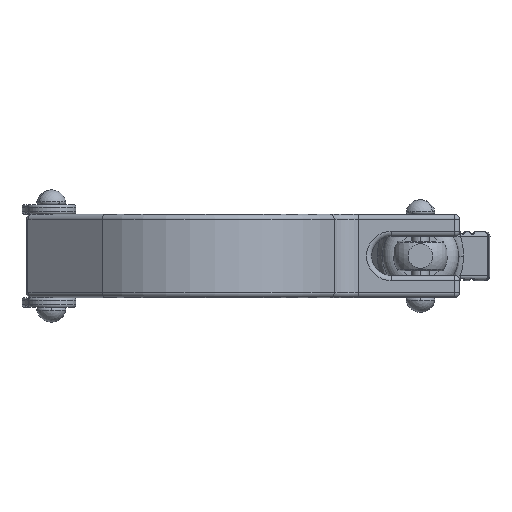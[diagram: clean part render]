
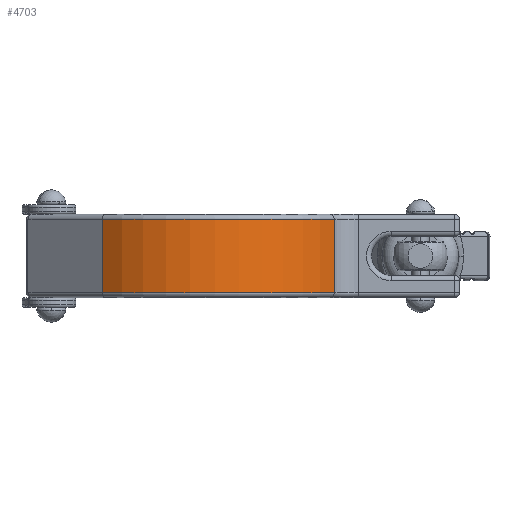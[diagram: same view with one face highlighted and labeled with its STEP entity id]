
A CAD part, front view. The second image highlights one B-rep face of the part: STEP entity #4703.
In plain terms, the highlighted cylindrical face has radius 31.15 mm (diameter 62.3 mm), a partial arc.
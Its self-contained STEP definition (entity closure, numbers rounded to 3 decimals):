
#164 = CIRCLE ( 'NONE', #10971, 31.15 ) ;
#1477 = CYLINDRICAL_SURFACE ( 'NONE', #9251, 31.15 ) ;
#1539 = CARTESIAN_POINT ( 'NONE',  ( 26.729, 15.996, 7.5 ) ) ;
#1940 = ORIENTED_EDGE ( 'NONE', *, *, #5685, .T. ) ;
#3472 = LINE ( 'NONE', #6433, #7222 ) ;
#3941 = VERTEX_POINT ( 'NONE', #9263 ) ;
#4114 = ORIENTED_EDGE ( 'NONE', *, *, #5447, .T. ) ;
#4703 = ADVANCED_FACE ( 'NONE', ( #12919 ), #1477, .T. ) ;
#4839 = DIRECTION ( 'NONE',  ( 0., 0., 1. ) ) ;
#4891 = EDGE_LOOP ( 'NONE', ( #12141, #15733, #4114, #1940 ) ) ;
#5447 = EDGE_CURVE ( 'NONE', #11794, #3941, #7924, .T. ) ;
#5685 = EDGE_CURVE ( 'NONE', #3941, #9790, #14677, .T. ) ;
#6433 = CARTESIAN_POINT ( 'NONE',  ( 26.729, 15.996, -8.5 ) ) ;
#7222 = VECTOR ( 'NONE', #14005, 1000. ) ;
#7360 = CARTESIAN_POINT ( 'NONE',  ( 0., 0., -7.5 ) ) ;
#7409 = DIRECTION ( 'NONE',  ( 0., 0., 1. ) ) ;
#7924 = LINE ( 'NONE', #12593, #10697 ) ;
#8564 = VERTEX_POINT ( 'NONE', #11179 ) ;
#9251 = AXIS2_PLACEMENT_3D ( 'NONE', #10464, #12941, #15505 ) ;
#9263 = CARTESIAN_POINT ( 'NONE',  ( -20.618, 23.35, 7.5 ) ) ;
#9790 = VERTEX_POINT ( 'NONE', #1539 ) ;
#10464 = CARTESIAN_POINT ( 'NONE',  ( 0., 0., -8.5 ) ) ;
#10673 = DIRECTION ( 'NONE',  ( 0., 0., -1. ) ) ;
#10697 = VECTOR ( 'NONE', #7409, 1000. ) ;
#10971 = AXIS2_PLACEMENT_3D ( 'NONE', #7360, #4839, #11127 ) ;
#11127 = DIRECTION ( 'NONE',  ( -1., 0., 0. ) ) ;
#11179 = CARTESIAN_POINT ( 'NONE',  ( 26.729, 15.996, -7.5 ) ) ;
#11794 = VERTEX_POINT ( 'NONE', #13736 ) ;
#11846 = CARTESIAN_POINT ( 'NONE',  ( 0., 0., 7.5 ) ) ;
#12102 = EDGE_CURVE ( 'NONE', #8564, #11794, #164, .T. ) ;
#12141 = ORIENTED_EDGE ( 'NONE', *, *, #14934, .F. ) ;
#12593 = CARTESIAN_POINT ( 'NONE',  ( -20.618, 23.35, -8.5 ) ) ;
#12919 = FACE_OUTER_BOUND ( 'NONE', #4891, .T. ) ;
#12941 = DIRECTION ( 'NONE',  ( 0., 0., 1. ) ) ;
#13736 = CARTESIAN_POINT ( 'NONE',  ( -20.618, 23.35, -7.5 ) ) ;
#14005 = DIRECTION ( 'NONE',  ( 0., 0., 1. ) ) ;
#14677 = CIRCLE ( 'NONE', #15215, 31.15 ) ;
#14934 = EDGE_CURVE ( 'NONE', #8564, #9790, #3472, .T. ) ;
#15215 = AXIS2_PLACEMENT_3D ( 'NONE', #11846, #10673, #15707 ) ;
#15505 = DIRECTION ( 'NONE',  ( 1., 0., 0. ) ) ;
#15707 = DIRECTION ( 'NONE',  ( -1., 0., 0. ) ) ;
#15733 = ORIENTED_EDGE ( 'NONE', *, *, #12102, .T. ) ;
